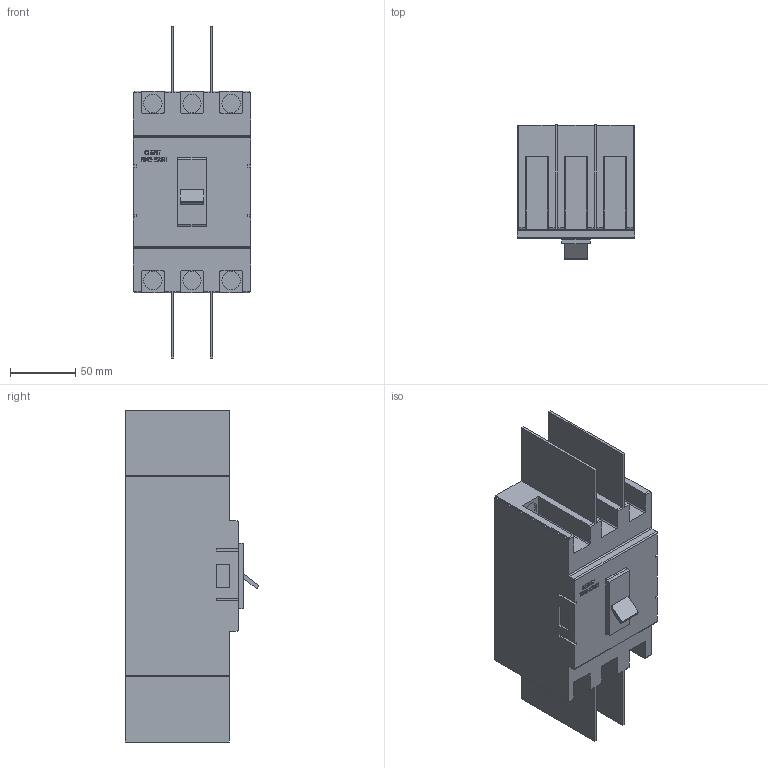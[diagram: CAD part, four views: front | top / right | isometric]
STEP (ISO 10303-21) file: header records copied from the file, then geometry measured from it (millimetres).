
FILE_DESCRIPTION(/* description */ ('','CAx-IF Rec.Pracs.---Representation and Presentation of Product Manufacturing Information (PMI)---3.8---2014-02-18'),/* implementation_level */ '2;1');
FILE_NAME(/* name */ 'C:\Users\ILYA\Desktop\NM1\Авт. выкл. NM1-125H3Р 125A 50кА (CHINT)\Авт. выкл. NM1-125H3Р 125A 50кА (CHINT).stp',/* time_stamp */ '2017-08-19T07:38:28+03:00',/* author */ ('ILYA'),/* organization */ (''),/* preprocessor_version */ 'ST-DEVELOPER v16.1',/* originating_system */ 'Autodesk Inventor 2016',/* authorisation */ '');
FILE_SCHEMA (('AP242_MANAGED_MODEL_BASED_3D_ENGINEERING_MIM_LF { 1 0 10303 442 1 1 4 }'));
Length unit declared in the file: millimetre
Products named in the file (1): Авт. выкл. NM1-12
5H3Р 125A 50кА (CHINT)
Bounding box: 90 x 102.79 x 255 mm (x, y, z)
Volume: 1103748.3 mm3; surface area: 115507.2 mm2
Topology: 1 solids, 1 shells, 311 faces, 854 edges, 568 vertices
Faces by surface type: plane 231, bspline 42, cylinder 38
Full cylindrical faces by diameter (mm): 14 x6
Entity records: 10176 total; most frequent: CARTESIAN_POINT 2399, ORIENTED_EDGE 1696, DIRECTION 1380, EDGE_CURVE 848, LINE 688, VECTOR 688, VERTEX_POINT 568, AXIS2_PLACEMENT_3D 346
